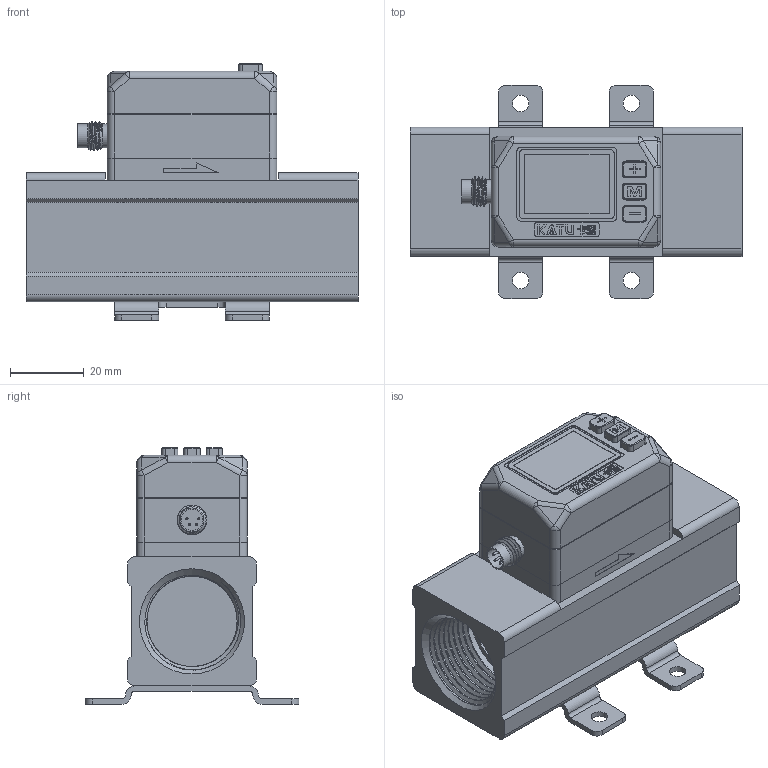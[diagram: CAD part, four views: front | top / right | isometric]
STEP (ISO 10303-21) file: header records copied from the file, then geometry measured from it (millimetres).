
FILE_DESCRIPTION( (''), '2;1');
FILE_NAME( 'QGKN_R3-4.step', '2025-06-24T11:18:06+08:00', (''), (''), '', '', '');
FILE_SCHEMA (('AUTOMOTIVE_DESIGN { 1 0 10303 214 3 1 1 1 }'));
Length unit declared in the file: millimetre
Products named in the file (1): QGKN R3-4
Bounding box: 90 x 58 x 69.6 mm (x, y, z)
Volume: 118757.1 mm3; surface area: 41605.4 mm2
Topology: 5 solids, 25 shells, 910 faces, 2300 edges, 1511 vertices
Faces by surface type: plane 492, cylinder 202, extrusion 170, sphere 16, torus 16, cone 8, bspline 6
Full cylindrical faces by diameter (mm): 0.6 x4, 1.2 x3, 1.5 x8, 2 x6, 2.05 x4, 2.5 x4, 3 x8, 3.5 x4, 4.5 x4, 5 x4, 5.8 x1, 6.5 x2, 24.5 x2, 27 x4
Entity records: 37301 total; most frequent: CARTESIAN_POINT 13033, ORIENTED_EDGE 4362, DIRECTION 3887, EDGE_CURVE 2181, VECTOR 1553, VERTEX_POINT 1466, LINE 1383, AXIS2_PLACEMENT_3D 1167
